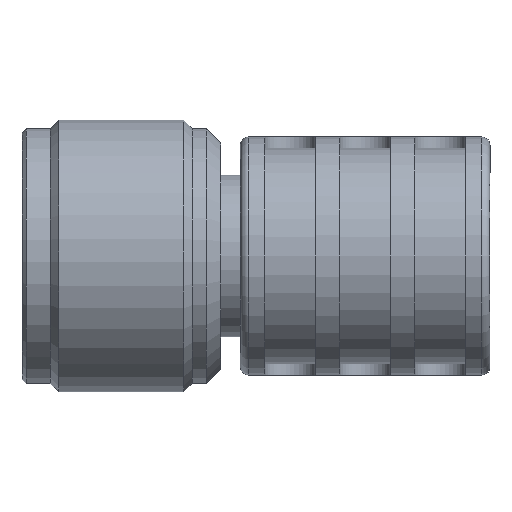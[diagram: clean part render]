
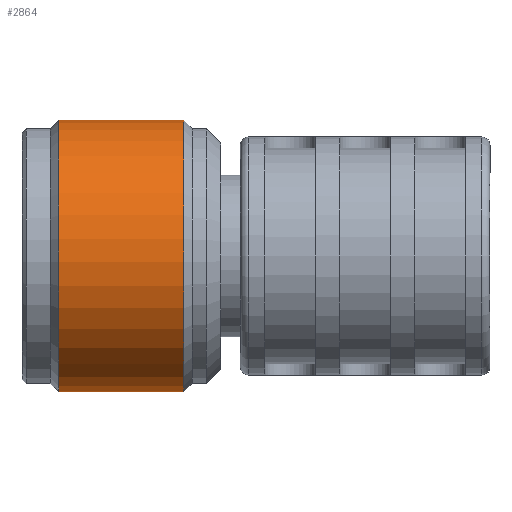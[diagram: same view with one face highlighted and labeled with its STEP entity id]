
A CAD part, left-side view. The second image highlights one B-rep face of the part: STEP entity #2864.
In plain terms, the highlighted cylindrical face has radius 4.8 mm (diameter 9.6 mm), a full revolution.
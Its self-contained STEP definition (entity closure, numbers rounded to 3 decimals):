
#376=FACE_BOUND('',#614,.T.);
#432=FACE_OUTER_BOUND('',#613,.T.);
#613=EDGE_LOOP('',(#1771));
#614=EDGE_LOOP('',(#1772));
#846=CIRCLE('',#3056,4.8);
#847=CIRCLE('',#3058,4.8);
#1094=VERTEX_POINT('',#4492);
#1095=VERTEX_POINT('',#4495);
#1372=EDGE_CURVE('',#1094,#1094,#846,.T.);
#1373=EDGE_CURVE('',#1095,#1095,#847,.T.);
#1771=ORIENTED_EDGE('',*,*,#1373,.T.);
#1772=ORIENTED_EDGE('',*,*,#1372,.F.);
#2563=CYLINDRICAL_SURFACE('',#3057,4.8);
#2864=ADVANCED_FACE('',(#432,#376),#2563,.T.);
#3056=AXIS2_PLACEMENT_3D('',#4493,#3492,#3493);
#3057=AXIS2_PLACEMENT_3D('',#4494,#3494,#3495);
#3058=AXIS2_PLACEMENT_3D('',#4496,#3496,#3497);
#3492=DIRECTION('center_axis',(0.,1.,0.));
#3493=DIRECTION('ref_axis',(0.046,0.,-0.999));
#3494=DIRECTION('center_axis',(0.,1.,0.));
#3495=DIRECTION('ref_axis',(0.046,0.,-0.999));
#3496=DIRECTION('center_axis',(0.,1.,0.));
#3497=DIRECTION('ref_axis',(0.046,0.,-0.999));
#4492=CARTESIAN_POINT('',(0.223,10.8,-4.795));
#4493=CARTESIAN_POINT('Origin',(0.,10.8,0.));
#4494=CARTESIAN_POINT('Origin',(0.,8.6,0.));
#4495=CARTESIAN_POINT('',(0.223,6.4,-4.795));
#4496=CARTESIAN_POINT('Origin',(0.,6.4,0.));
